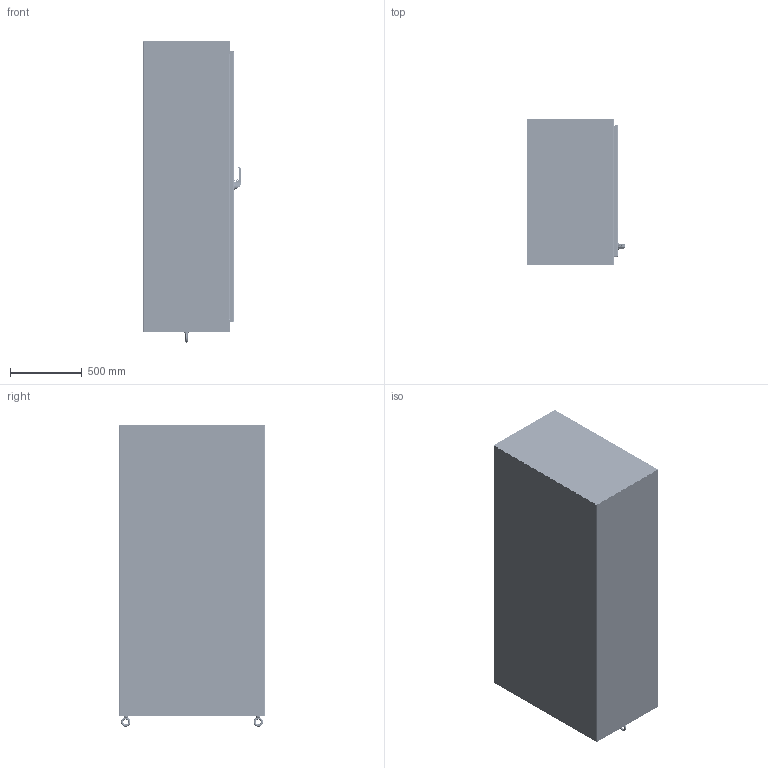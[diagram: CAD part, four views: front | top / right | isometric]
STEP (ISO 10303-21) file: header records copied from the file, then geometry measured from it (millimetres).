
FILE_DESCRIPTION((''),'2;1');
FILE_NAME('MODEL-461_ASM','2023-09-19T12:49:33',('joshi'),('SAGINAW CONTROL & ENGINEERING'),'CREO PARAMETRIC BY PTC INC, 2021284','CREO PARAMETRIC BY PTC INC, 2021284','');
FILE_SCHEMA(('AUTOMOTIVE_DESIGN { 1 0 10303 214 1 1 1 1 }'));
Length unit declared in the file: inch
Products named in the file (60): MODEL-461-L-SD; MODEL-461-TP; MODEL-461-R-SD; MODEL-461-BTM; MODEL-461-DR; 100837; 111267; 100882; 100953_HANDLE; 100953_HANDLE_INSERT; 100953_SHAFT_CAM; 100953_ADAPTER_CAM; 100953_NUT_CAM; 100953_BASE; 100953_O-RING; 100953_WASHER_SEALING; 100953_NUT_MOUNTING_LARGE; 100953_NUT_MOUNTING_SMALL; 100953_SCREW_SMALL; 100953_INSERT; 100953_PADLOCK_CATCH; 100953_ASM; 102237; 100030; 102237_ASM; MODEL-461-ROD-UPR; 128146; 128145; 128144; 102482; MODEL-461-ROD-UPR_ASM; 128143; 112504; MODEL-461-ROD-LWR; MODEL-461-ROD-LWR_ASM; MODEL-461-PR-GSKT; 128258; 128258_ASM; 126395; 102483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
Assembly tree (123 placements, depth 4):
  MODEL-461_ASM
    MODEL-461-L-SD
    MODEL-461-TP
    MODEL-461-R-SD
    MODEL-461-BTM
    MODEL-461-DOOR-ASSY_ASM
      MODEL-461-DR
      100837  x7
      111267
      100882  x12
      100953_ASM
        100953_HANDLE
        100953_HANDLE_INSERT
        100953_SHAFT_CAM
        100953_ADAPTER_CAM
        100953_NUT_CAM
        100953_BASE
        100953_O-RING
        100953_WASHER_SEALING
        100953_NUT_MOUNTING_LARGE
        100953_NUT_MOUNTING_SMALL
        100953_SCREW_SMALL
        100953_INSERT
        100953_PADLOCK_CATCH
      102237_ASM
        102237
        100030  x2
      MODEL-461-ROD-UPR_ASM
        MODEL-461-ROD-UPR
        128146
        128145
        128144
        102482  x2
      128143  x2
      112504  x2
      MODEL-461-ROD-LWR_ASM
        MODEL-461-ROD-LWR
        128146
        128145
        128144
        102482  x2
      MODEL-461-PR-GSKT
      128258_ASM  x4
        128258
      126395  x4
      102483  x4
      101383_ASM  x4
        101383
        101383-STUD
      101221  x4
    MODEL-461-BCK
    100837  x4
    103357
    101653  x8
    MODEL-461-S-BRACE  x2
    102245  x2
    121454
    130514  x2
    103300_ASM  x2
      100834
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Bounding box: 686.47 x 1022.35 x 2106.8 mm (x, y, z)
Volume: 28689728.3 mm3; surface area: 20809644.9 mm2
Topology: 128 solids, 128 shells, 10253 faces, 26503 edges, 16518 vertices
Faces by surface type: plane 3556, cylinder 2657, bspline 2461, torus 674, cone 641, sphere 264
Entity records: 233649 total; most frequent: CARTESIAN_POINT 82213, ORIENTED_EDGE 22892, DIRECTION 21148, PRESENTATION_STYLE_ASSIGNMENT 11615, STYLED_ITEM 11469, EDGE_CURVE 11446, CURVE_STYLE 11398, AXIS2_PLACEMENT_3D 7951
